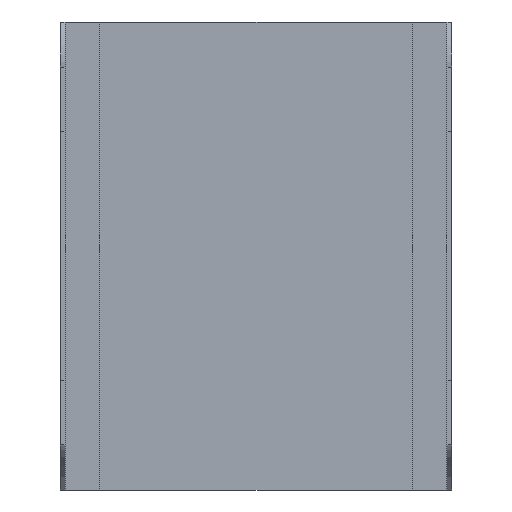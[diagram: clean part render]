
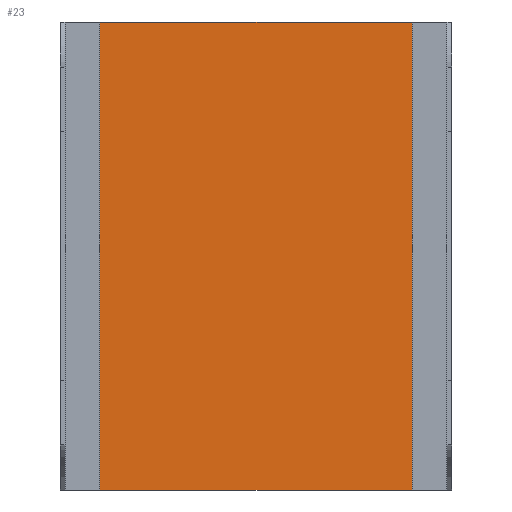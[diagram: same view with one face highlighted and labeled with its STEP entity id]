
A CAD part, front view. The second image highlights one B-rep face of the part: STEP entity #23.
In plain terms, the highlighted planar face has unit normal (0, -1, 0).
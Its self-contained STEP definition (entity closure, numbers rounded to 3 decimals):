
#23 = ADVANCED_FACE ( 'NONE', ( #982 ), #1212, .F. ) ;
#38 = VECTOR ( 'NONE', #818, 1000. ) ;
#91 = LINE ( 'NONE', #825, #38 ) ;
#174 = ORIENTED_EDGE ( 'NONE', *, *, #426, .T. ) ;
#247 = VERTEX_POINT ( 'NONE', #1340 ) ;
#315 = VERTEX_POINT ( 'NONE', #1216 ) ;
#356 = EDGE_LOOP ( 'NONE', ( #174, #885, #1053, #1002 ) ) ;
#384 = VERTEX_POINT ( 'NONE', #1158 ) ;
#399 = VERTEX_POINT ( 'NONE', #1352 ) ;
#426 = EDGE_CURVE ( 'NONE', #399, #247, #1040, .T. ) ;
#460 = EDGE_CURVE ( 'NONE', #315, #399, #596, .T. ) ;
#478 = EDGE_CURVE ( 'NONE', #315, #384, #657, .T. ) ;
#508 = EDGE_CURVE ( 'NONE', #384, #247, #91, .T. ) ;
#565 = VECTOR ( 'NONE', #1195, 1000. ) ;
#596 = LINE ( 'NONE', #1138, #565 ) ;
#651 = VECTOR ( 'NONE', #1221, 1000. ) ;
#657 = LINE ( 'NONE', #1357, #651 ) ;
#818 = DIRECTION ( 'NONE',  ( 0., 0., -1. ) ) ;
#825 = CARTESIAN_POINT ( 'NONE',  ( 95.25, -68., 142.5 ) ) ;
#885 = ORIENTED_EDGE ( 'NONE', *, *, #508, .F. ) ;
#982 = FACE_OUTER_BOUND ( 'NONE', #356, .T. ) ;
#1002 = ORIENTED_EDGE ( 'NONE', *, *, #460, .T. ) ;
#1039 = VECTOR ( 'NONE', #1167, 1000. ) ;
#1040 = LINE ( 'NONE', #1294, #1039 ) ;
#1053 = ORIENTED_EDGE ( 'NONE', *, *, #478, .F. ) ;
#1119 = CARTESIAN_POINT ( 'NONE',  ( -95.25, -68., 142.5 ) ) ;
#1138 = CARTESIAN_POINT ( 'NONE',  ( -95.25, -68., 142.5 ) ) ;
#1158 = CARTESIAN_POINT ( 'NONE',  ( 95.25, -68., 142.5 ) ) ;
#1167 = DIRECTION ( 'NONE',  ( 1., 0., 0. ) ) ;
#1173 = DIRECTION ( 'NONE',  ( 0., 1., 0. ) ) ;
#1195 = DIRECTION ( 'NONE',  ( 0., 0., -1. ) ) ;
#1212 = PLANE ( 'NONE',  #1397 ) ;
#1216 = CARTESIAN_POINT ( 'NONE',  ( -95.25, -68., 142.5 ) ) ;
#1221 = DIRECTION ( 'NONE',  ( 1., 0., 0. ) ) ;
#1294 = CARTESIAN_POINT ( 'NONE',  ( -95.25, -68., -142.5 ) ) ;
#1336 = DIRECTION ( 'NONE',  ( -1., 0., 0. ) ) ;
#1340 = CARTESIAN_POINT ( 'NONE',  ( 95.25, -68., -142.5 ) ) ;
#1352 = CARTESIAN_POINT ( 'NONE',  ( -95.25, -68., -142.5 ) ) ;
#1357 = CARTESIAN_POINT ( 'NONE',  ( -95.25, -68., 142.5 ) ) ;
#1397 = AXIS2_PLACEMENT_3D ( 'NONE', #1119, #1173, #1336 ) ;
